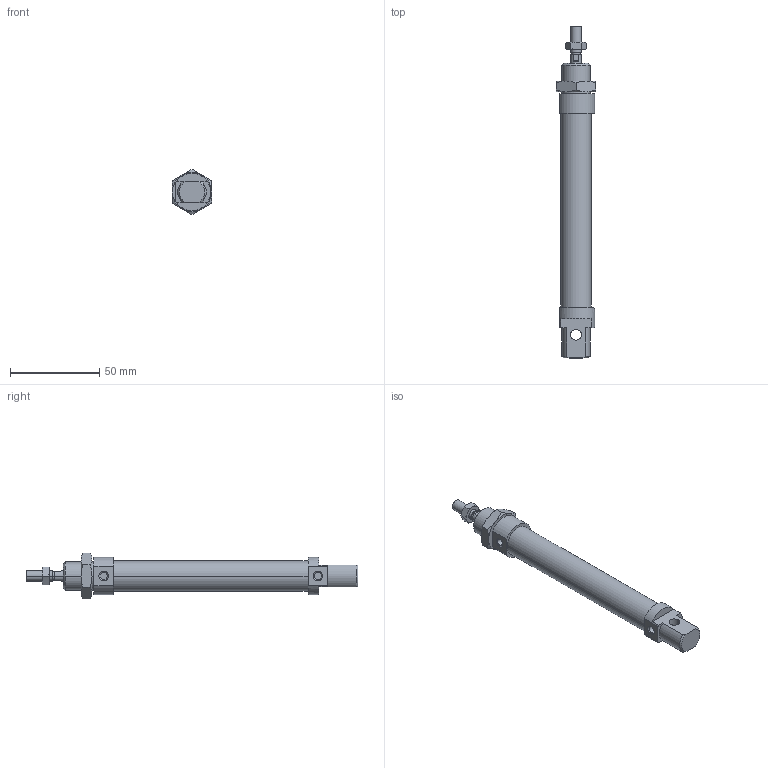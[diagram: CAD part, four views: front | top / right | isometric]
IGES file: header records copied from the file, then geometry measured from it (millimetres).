
Global section: file name: No Iges File Name specified; native system: Autodesk Inventor 2010; preprocessor: AutoDesk Inventor Iges Exporter R2010; author: rivolro1; date: 20090604.093218; units: millimetre
Bounding box: 22 x 186 x 25.4 mm (x, y, z)
Volume: 40287.3 mm3; surface area: 15926.9 mm2
Topology: 4 solids, 4 shells, 107 faces, 236 edges, 144 vertices
Faces by surface type: plane 39, cone 28, bspline 20, cylinder 14, revolution 6
